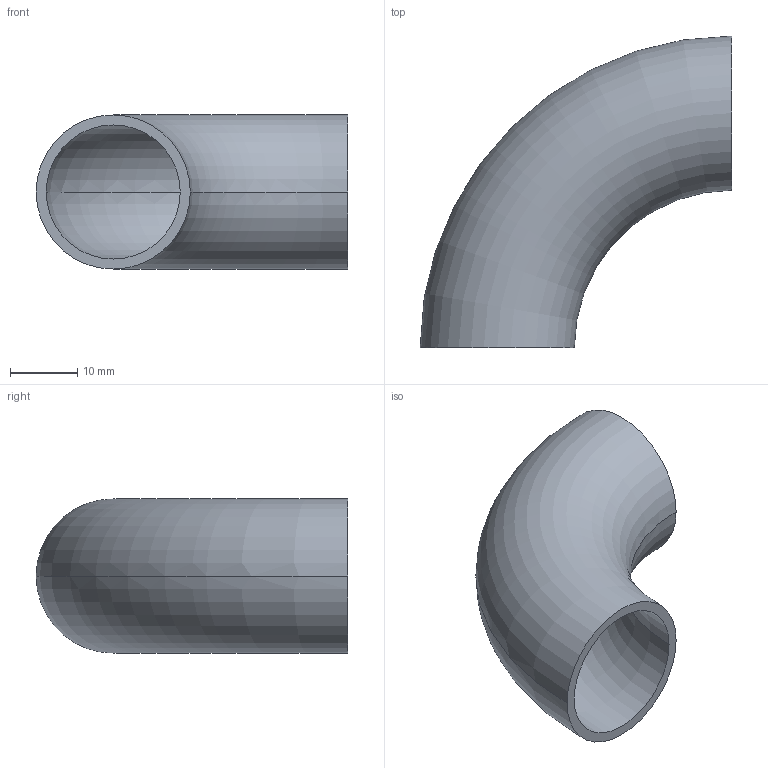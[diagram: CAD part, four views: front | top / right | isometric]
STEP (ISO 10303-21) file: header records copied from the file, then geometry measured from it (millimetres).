
FILE_DESCRIPTION (( 'STEP AP203' ), '1' );
FILE_NAME ('OT212-20-23x1_5_OSTP.step', '2020-12-16T01:58:37', ( '' ), ( '' ), 'SwSTEP 2.0', 'SolidWorks 2014', '' );
FILE_SCHEMA (( 'CONFIG_CONTROL_DESIGN' ));
Length unit declared in the file: millimetre
Products named in the file (1): OT212-20-23x1_5_OSTP
Bounding box: 46.5 x 46.5 x 23 mm (x, y, z)
Volume: 5570.2 mm3; surface area: 7629.5 mm2
Topology: 1 solids, 1 shells, 6 faces, 12 edges, 8 vertices
Faces by surface type: torus 4, plane 2
Entity records: 249 total; most frequent: DIRECTION 38, CARTESIAN_POINT 27, ORIENTED_EDGE 24, AXIS2_PLACEMENT_3D 19, CIRCLE 12, EDGE_CURVE 12, PERSON_AND_ORGANIZATION 8, VERTEX_POINT 8
